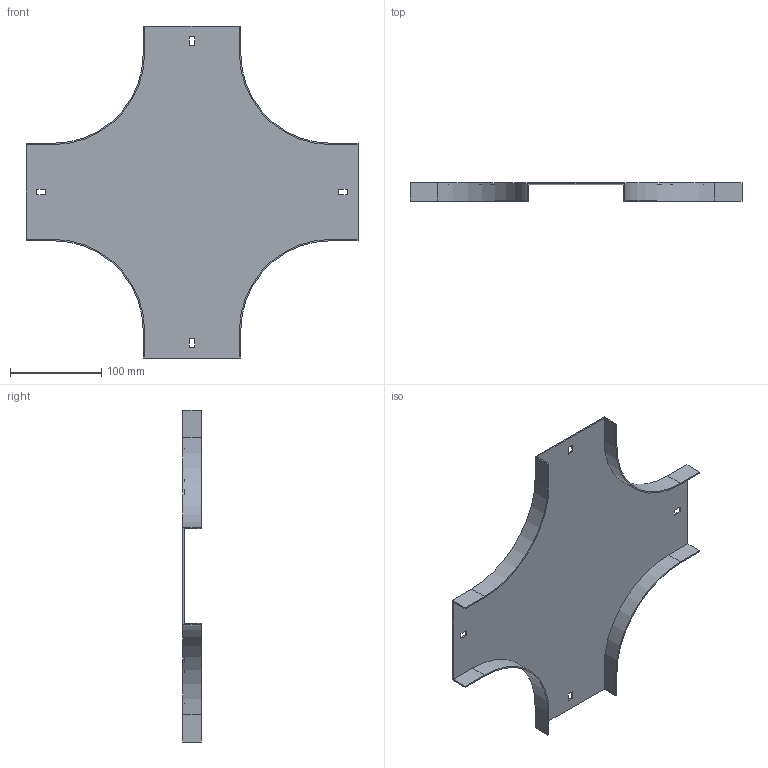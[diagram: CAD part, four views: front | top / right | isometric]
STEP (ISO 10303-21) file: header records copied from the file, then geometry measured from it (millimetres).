
FILE_DESCRIPTION (( 'STEP AP214' ), '1' );
FILE_NAME ('17G1R100.step', '2025-02-21T13:03:08', ( '' ), ( '' ), 'SwSTEP 2.0', 'SolidWorks 2023', '' );
FILE_SCHEMA (( 'AUTOMOTIVE_DESIGN' ));
Length unit declared in the file: millimetre
Products named in the file (1): 17G1R100
Bounding box: 364 x 20 x 364 mm (x, y, z)
Volume: 135777.3 mm3; surface area: 183374.7 mm2
Topology: 1 solids, 1 shells, 50 faces, 144 edges, 96 vertices
Faces by surface type: plane 42, cylinder 8
Entity records: 1663 total; most frequent: CARTESIAN_POINT 291, ORIENTED_EDGE 288, DIRECTION 262, EDGE_CURVE 144, LINE 128, VECTOR 128, VERTEX_POINT 96, AXIS2_PLACEMENT_3D 67
